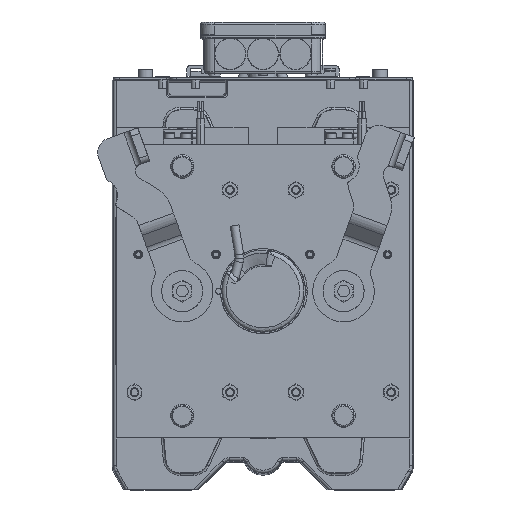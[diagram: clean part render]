
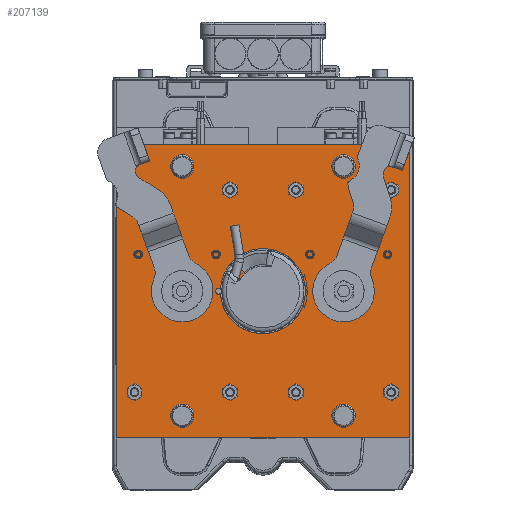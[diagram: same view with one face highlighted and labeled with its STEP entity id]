
A CAD part, top view. The second image highlights one B-rep face of the part: STEP entity #207139.
In plain terms, the highlighted planar face has unit normal (0, 0, 1).
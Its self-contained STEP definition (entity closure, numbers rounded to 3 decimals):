
#195252=DIRECTION('',(0.,1.,0.));
#195253=VECTOR('',#195252,200.);
#195254=CARTESIAN_POINT('',(-100.,-100.,111.55));
#195255=LINE('',#195254,#195253);
#195256=DIRECTION('',(1.,0.,0.));
#195257=VECTOR('',#195256,200.);
#195258=CARTESIAN_POINT('',(-100.,100.,111.55));
#195259=LINE('',#195258,#195257);
#195260=DIRECTION('',(0.,-1.,0.));
#195261=VECTOR('',#195260,200.);
#195262=CARTESIAN_POINT('',(100.,100.,111.55));
#195263=LINE('',#195262,#195261);
#195264=DIRECTION('',(-1.,0.,0.));
#195265=VECTOR('',#195264,200.);
#195266=CARTESIAN_POINT('',(100.,-100.,111.55));
#195267=LINE('',#195266,#195265);
#204967=CARTESIAN_POINT('',(100.,-100.,111.55));
#204968=VERTEX_POINT('',#204967);
#204969=CARTESIAN_POINT('',(100.,100.,111.55));
#204970=VERTEX_POINT('',#204969);
#204975=CARTESIAN_POINT('',(-100.,100.,111.55));
#204976=VERTEX_POINT('',#204975);
#205017=CARTESIAN_POINT('',(-100.,-100.,111.55));
#205018=VERTEX_POINT('',#205017);
#207126=CARTESIAN_POINT('',(0.,0.,111.55));
#207127=DIRECTION('',(0.,0.,-1.));
#207128=DIRECTION('',(-1.,0.,0.));
#207129=AXIS2_PLACEMENT_3D('',#207126,#207127,#207128);
#207130=PLANE('',#207129);
#207132=ORIENTED_EDGE('',*,*,#207131,.T.);
#207133=ORIENTED_EDGE('',*,*,#207119,.T.);
#207134=ORIENTED_EDGE('',*,*,#207090,.T.);
#207136=ORIENTED_EDGE('',*,*,#207135,.T.);
#207137=EDGE_LOOP('',(#207132,#207133,#207134,#207136));
#207138=FACE_OUTER_BOUND('',#207137,.F.);
#207139=ADVANCED_FACE('',(#207138),#207130,.F.);
#207090=EDGE_CURVE('',#204970,#204968,#195263,.T.);
#207119=EDGE_CURVE('',#204976,#204970,#195259,.T.);
#207131=EDGE_CURVE('',#205018,#204976,#195255,.T.);
#207135=EDGE_CURVE('',#204968,#205018,#195267,.T.);
